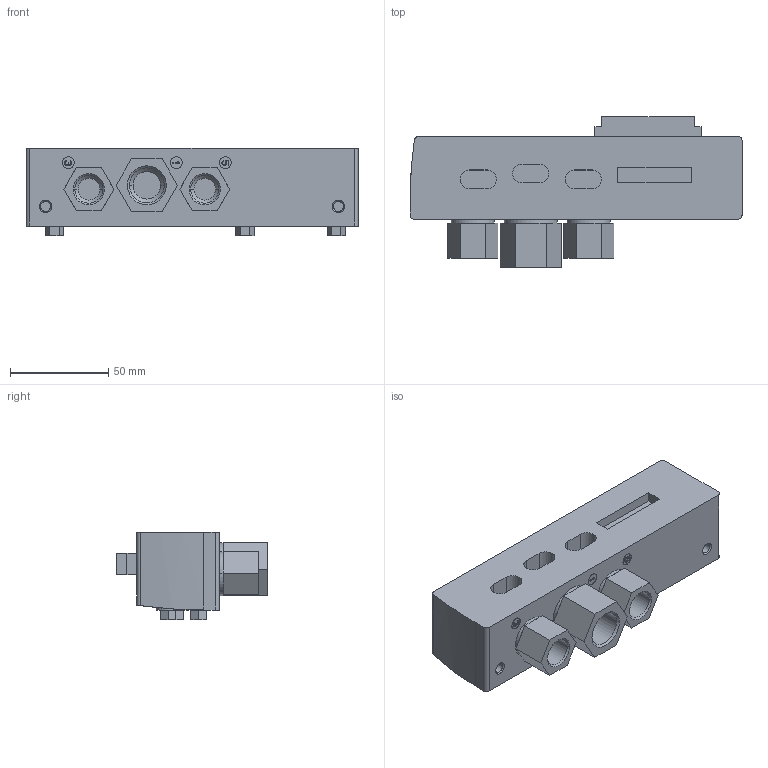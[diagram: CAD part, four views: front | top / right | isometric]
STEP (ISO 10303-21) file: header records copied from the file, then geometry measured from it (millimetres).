
FILE_DESCRIPTION((''),'2;1');
FILE_NAME('2631481160','2020-11-03T13:52:31',('PDH2HC'),(''),'CREO PARAMETRIC BY PTC INC, 2018190','CREO PARAMETRIC BY PTC INC, 2018190','');
FILE_SCHEMA(('CONFIG_CONTROL_DESIGN'));
Length unit declared in the file: millimetre
Products named in the file (1): 2631481160
Bounding box: 169 x 76.65 x 44.65 mm (x, y, z)
Volume: 278069.2 mm3; surface area: 48744.8 mm2
Topology: 1 solids, 1 shells, 321 faces, 790 edges, 507 vertices
Faces by surface type: plane 218, cylinder 69, cone 34
Entity records: 9736 total; most frequent: CARTESIAN_POINT 1965, DIRECTION 1599, ORIENTED_EDGE 1580, EDGE_CURVE 790, VECTOR 607, LINE 607, VERTEX_POINT 507, AXIS2_PLACEMENT_3D 496
